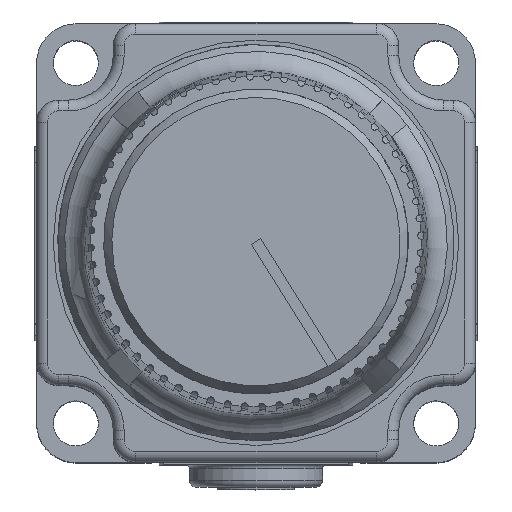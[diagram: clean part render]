
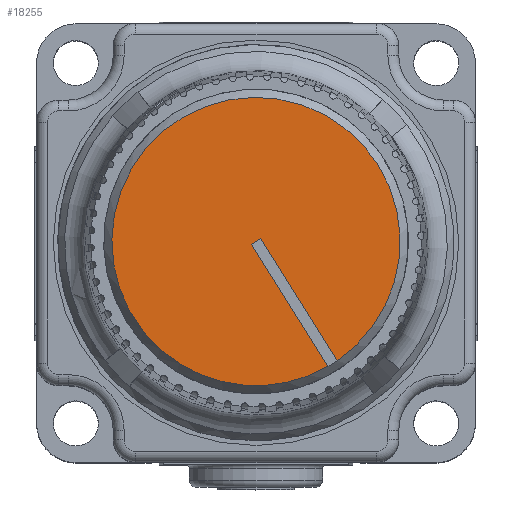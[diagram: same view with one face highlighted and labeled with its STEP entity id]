
A CAD part, top view. The second image highlights one B-rep face of the part: STEP entity #18255.
In plain terms, the highlighted planar face has unit normal (0, 0, 1).
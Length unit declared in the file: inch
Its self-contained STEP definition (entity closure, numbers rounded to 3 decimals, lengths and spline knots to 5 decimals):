
#1859=LINE('',#35513,#3128);
#1864=LINE('',#35532,#3133);
#1867=LINE('',#35537,#3136);
#3128=VECTOR('',#24581,0.3937);
#3133=VECTOR('',#24592,0.3937);
#3136=VECTOR('',#24597,0.3937);
#4343=FACE_OUTER_BOUND('',#5432,.T.);
#5432=EDGE_LOOP('',(#14700,#14701,#14702,#14703,#14704));
#6292=CIRCLE('',#20081,0.4);
#6293=CIRCLE('',#20082,0.4);
#7841=VERTEX_POINT('',#35511);
#7842=VERTEX_POINT('',#35512);
#7845=VERTEX_POINT('',#35525);
#7847=VERTEX_POINT('',#35531);
#7849=VERTEX_POINT('',#35541);
#10172=EDGE_CURVE('',#7841,#7842,#1859,.T.);
#10179=EDGE_CURVE('',#7847,#7845,#1864,.T.);
#10182=EDGE_CURVE('',#7842,#7847,#1867,.T.);
#10184=EDGE_CURVE('',#7845,#7849,#6292,.T.);
#10185=EDGE_CURVE('',#7849,#7841,#6293,.T.);
#14700=ORIENTED_EDGE('',*,*,#10179,.T.);
#14701=ORIENTED_EDGE('',*,*,#10184,.T.);
#14702=ORIENTED_EDGE('',*,*,#10185,.T.);
#14703=ORIENTED_EDGE('',*,*,#10172,.T.);
#14704=ORIENTED_EDGE('',*,*,#10182,.T.);
#16384=PLANE('',#20085);
#18255=ADVANCED_FACE('',(#4343),#16384,.T.);
#20081=AXIS2_PLACEMENT_3D('',#35542,#24603,#24604);
#20082=AXIS2_PLACEMENT_3D('',#35543,#24605,#24606);
#20085=AXIS2_PLACEMENT_3D('',#35549,#24612,#24613);
#24581=DIRECTION('',(-0.532,0.847,0.));
#24592=DIRECTION('',(0.532,-0.847,0.));
#24597=DIRECTION('',(0.847,0.532,0.));
#24603=DIRECTION('center_axis',(0.,0.,1.));
#24604=DIRECTION('ref_axis',(0.847,0.532,0.));
#24605=DIRECTION('center_axis',(0.,0.,1.));
#24606=DIRECTION('ref_axis',(0.847,0.532,0.));
#24612=DIRECTION('center_axis',(0.,0.,1.));
#24613=DIRECTION('ref_axis',(1.,0.,0.));
#35511=CARTESIAN_POINT('',(0.09015,-0.48328,1.8705));
#35512=CARTESIAN_POINT('',(-0.12234,-0.14471,1.8705));
#35513=CARTESIAN_POINT('',(0.09015,-0.48328,1.8705));
#35525=CARTESIAN_POINT('',(0.11556,-0.46733,1.8705));
#35531=CARTESIAN_POINT('',(-0.09693,-0.12877,1.8705));
#35532=CARTESIAN_POINT('',(-0.09693,-0.12877,1.8705));
#35537=CARTESIAN_POINT('',(-0.12234,-0.14471,1.8705));
#35541=CARTESIAN_POINT('',(-0.26179,-0.50667,1.8705));
#35542=CARTESIAN_POINT('Origin',(-0.10964,-0.13674,
1.8705));
#35543=CARTESIAN_POINT('Origin',(-0.10964,-0.13674,
1.8705));
#35549=CARTESIAN_POINT('Origin',(-0.45841,-0.35258,
1.8705));
